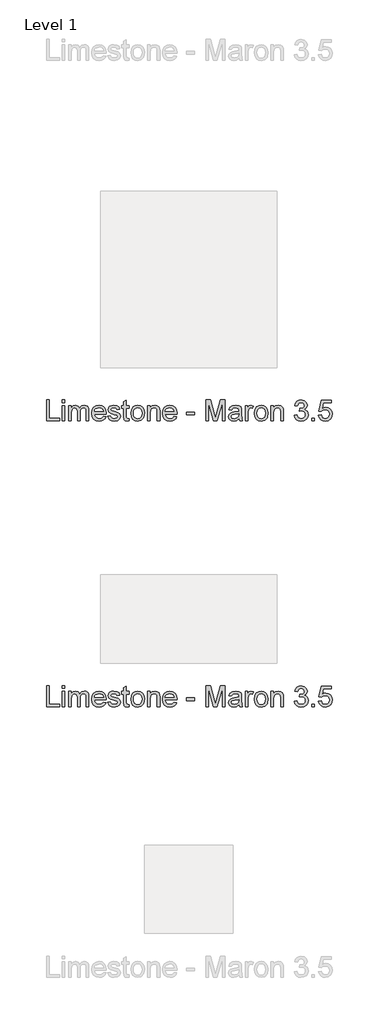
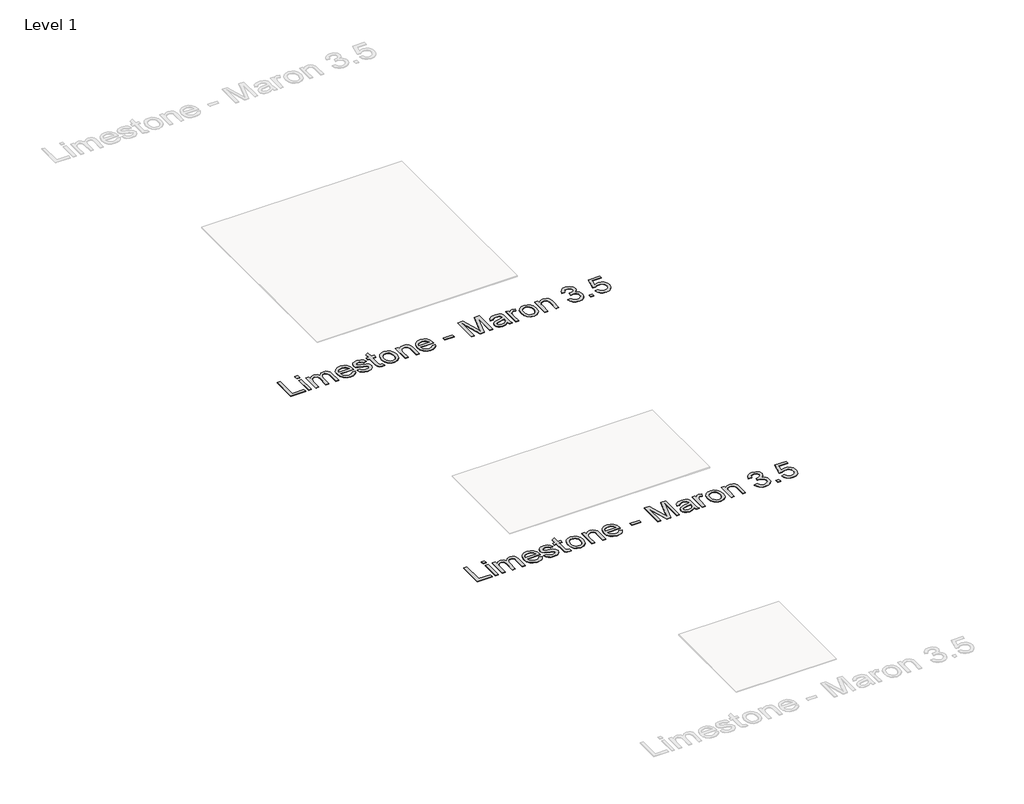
# One storey, part 16 of 80: 2 proxies.
"""IFC4 building model written with IfcOpenShell, lengths in millimetres."""

from ifc_helpers import new_model, si_unit, origin, origin_with_axes, place, context, project, spatial, polyline, outline, extrude, element, save

model = new_model("IFC4")

# Units and contexts
model_context = context("Model", 3, world=origin())
ifc_project = project(units=[si_unit("LENGTHUNIT", "METRE", prefix="MILLI")], contexts=[model_context])

# Site, building, storey
site = spatial("IfcSite", under=ifc_project)
building = spatial("IfcBuilding", under=site)
storey = spatial("IfcBuildingStorey", under=building, Name="Level 1", Elevation=0.0)

# Proxies
placement = place(None, origin())
element("IfcBuildingElementProxy", 1, Name="24\" Arial", ObjectType="24\" Arial", at=placement, inside=storey, context=model_context, shape_type="SweptSolid", body=[
    extrude(outline(polyline([(-27251.3838002, -675.4265771), (-27251.3838002, -557.272731), (-27236.6145694, -557.272731), (-27236.6145694, -660.6573464), (-27177.5376464, -660.6573464), (-27177.5376464, -675.4265771), (-27251.3838002, -675.4265771)])), origin_with_axes(), (0.0, 0.0, 1.0), 2.0),
    extrude(outline(polyline([(-27162.7684156, -572.0419617), (-27162.7684156, -557.272731), (-27147.9991848, -557.272731), (-27147.9991848, -572.0419617), (-27162.7684156, -572.0419617)])), origin_with_axes(), (0.0, 0.0, 1.0), 2.0),
    extrude(outline(polyline([(-27162.7684156, -675.4265771), (-27162.7684156, -588.6573464), (-27147.9991848, -588.6573464), (-27147.9991848, -675.4265771), (-27162.7684156, -675.4265771)])), origin_with_axes(), (0.0, 0.0, 1.0), 2.0),
    extrude(outline(polyline([(-27125.8453387, -675.4265771), (-27125.8453387, -588.6573464), (-27111.0761079, -588.6573464), (-27111.0761079, -602.9361925), (-27100.9222617, -591.2390771), (-27086.4703387, -586.8111925), (-27071.6722617, -591.3256156), (-27063.5376464, -603.974654), (-27052.0136079, -591.1020579), (-27037.4607233, -586.8111925), (-27026.3585598, -588.5960483), (-27018.1482233, -593.9506156), (-27013.074906, -603.0191252), (-27011.3838002, -615.9458079), (-27011.3838002, -675.4265771), (-27026.153031, -675.4265771), (-27026.153031, -622.2919617), (-27027.5232233, -609.960231), (-27032.4847617, -603.8881156), (-27040.9222617, -601.5804233), (-27048.9234637, -603.0587887), (-27055.4463002, -607.4938848), (-27059.7840406, -615.1885964), (-27061.2299541, -626.4458079), (-27061.2299541, -675.4265771), (-27075.9991848, -675.4265771), (-27075.9991848, -620.647731), (-27079.4174541, -606.3400387), (-27090.6241848, -601.5804233), (-27101.5568771, -604.7535002), (-27108.8261079, -614.0419617), (-27111.0761079, -631.6669617), (-27111.0761079, -675.4265771), (-27125.8453387, -675.4265771)])), origin_with_axes(), (0.0, 0.0, 1.0), 2.0),
    extrude(outline(polyline([(-26928.4799541, -649.5804233), (-26913.9991848, -651.4265771), (-26919.2167329, -662.3376348), (-26927.5424541, -670.4938848), (-26938.7888483, -675.5780194), (-26952.7684156, -677.272731), (-26970.0977425, -674.3484521), (-26983.4318771, -665.5756156), (-26991.934281, -651.5239329), (-26994.7684156, -632.7631156), (-26991.9054348, -613.3712887), (-26983.3164925, -598.8688848), (-26970.1626464, -589.8256156), (-26953.6049541, -586.8111925), (-26937.5628867, -589.818404), (-26924.7443771, -598.8400387), (-26916.3393291, -613.3135964), (-26913.5376464, -632.6765771), (-26913.6241848, -636.6573464), (-26979.9991848, -636.6573464), (-26977.4426944, -647.7126348), (-26971.5039925, -655.8400387), (-26962.9330791, -660.8376348), (-26952.4799541, -662.5035002), (-26937.9991848, -659.4169617), (-26928.4799541, -649.5804233)]), holes=[polyline([(-26979.9991848, -621.8881156), (-26928.3068771, -621.8881156), (-26934.2203387, -608.5035002), (-26942.8309156, -603.3111925), (-26953.6626464, -601.5804233), (-26971.8501464, -607.1044617), (-26977.5725021, -613.5623944), (-26979.9991848, -621.8881156)])]), origin_with_axes(), (0.0, 0.0, 1.0), 2.0),
    extrude(outline(polyline([(-26904.3068771, -649.5804233), (-26889.5376464, -647.7342694), (-26882.7011079, -658.6958079), (-26867.0376464, -662.5035002), (-26851.9799541, -659.0131156), (-26847.0761079, -650.8208079), (-26852.0088002, -644.1861925), (-26867.2107233, -639.974654), (-26889.4511079, -632.7486925), (-26899.1578387, -624.3111925), (-26902.4607233, -612.397731), (-26899.8068771, -601.3929233), (-26892.5664925, -592.9842694), (-26883.1770694, -588.6140771), (-26870.4703387, -586.8111925), (-26852.4991848, -589.710231), (-26841.0761079, -597.5563848), (-26835.9991848, -610.8111925), (-26850.7684156, -612.6573464), (-26856.3213002, -604.5083079), (-26869.3164925, -601.5804233), (-26883.4511079, -604.3785002), (-26887.6914925, -610.897731), (-26885.9318771, -615.1958079), (-26880.4222617, -618.4554233), (-26867.7011079, -621.599654), (-26846.0232233, -628.5515771), (-26835.9559156, -636.4265771), (-26832.3068771, -649.2631156), (-26836.590531, -663.397731), (-26848.9511079, -673.6525387), (-26867.2395694, -677.272731), (-26882.1313964, -675.5275387), (-26892.9991848, -670.2919617), (-26900.2539925, -661.6236925), (-26904.3068771, -649.5804233)])), origin_with_axes(), (0.0, 0.0, 1.0), 2.0),
    extrude(outline(polyline([(-26784.3068771, -663.1092694), (-26782.4607233, -675.8592694), (-26793.5088002, -677.272731), (-26805.8838002, -674.8208079), (-26812.0568771, -668.3881156), (-26813.8453387, -651.6285002), (-26813.8453387, -603.4265771), (-26824.9222617, -603.4265771), (-26824.9222617, -588.6573464), (-26813.8453387, -588.6573464), (-26813.8453387, -567.5708079), (-26799.0761079, -558.8881156), (-26799.0761079, -588.6573464), (-26784.3068771, -588.6573464), (-26784.3068771, -603.4265771), (-26799.0761079, -603.4265771), (-26799.0761079, -651.1958079), (-26798.2972617, -658.8111925), (-26795.7732233, -661.5083079), (-26790.7395694, -662.5035002), (-26784.3068771, -663.1092694)])), origin_with_axes(), (0.0, 0.0, 1.0), 2.0),
    extrude(outline(polyline([(-26773.2299541, -632.0419617), (-26770.0352425, -611.1212887), (-26760.4511079, -596.4169617), (-26748.6097617, -589.2126348), (-26734.4318771, -586.8111925), (-26718.9162521, -589.7354714), (-26706.5232233, -598.5083079), (-26698.3994252, -612.4373944), (-26695.6914925, -630.8304233), (-26700.4799541, -657.1092694), (-26714.4270694, -671.9794617), (-26734.4318771, -677.272731), (-26750.1350021, -674.3592694), (-26762.5136079, -665.6188848), (-26770.5508675, -651.397731), (-26773.2299541, -632.0419617)]), holes=[polyline([(-26758.4607233, -632.0131156), (-26756.7515887, -645.3797021), (-26751.6241848, -654.9025387), (-26743.9078387, -660.6032598), (-26734.4318771, -662.5035002), (-26724.9991848, -660.5924425), (-26717.2972617, -654.8592694), (-26712.1698579, -645.210231), (-26710.4607233, -631.5515771), (-26712.1806752, -618.5744137), (-26717.340531, -609.1813848), (-26725.0532714, -603.4806637), (-26734.4318771, -601.5804233), (-26743.9078387, -603.4734521), (-26751.6241848, -609.1525387), (-26756.7515887, -618.6537406), (-26758.4607233, -632.0131156)])]), origin_with_axes(), (0.0, 0.0, 1.0), 2.0),
    extrude(outline(polyline([(-26679.0761079, -675.4265771), (-26679.0761079, -588.6573464), (-26664.3068771, -588.6573464), (-26664.3068771, -600.772731), (-26653.0136079, -590.3015771), (-26637.5953387, -586.8111925), (-26623.6482233, -589.6236925), (-26614.1289925, -597.0083079), (-26609.7011079, -607.8688848), (-26608.9222617, -622.147731), (-26608.9222617, -675.4265771), (-26623.6914925, -675.4265771), (-26623.6914925, -624.1381156), (-26625.3934156, -611.0708079), (-26631.4078387, -604.162154), (-26641.5472617, -601.5804233), (-26657.5713002, -607.3785002), (-26662.6229829, -615.7799425), (-26664.3068771, -629.3881156), (-26664.3068771, -675.4265771), (-26679.0761079, -675.4265771)])), origin_with_axes(), (0.0, 0.0, 1.0), 2.0),
    extrude(outline(polyline([(-26527.8645694, -649.5804233), (-26513.3838002, -651.4265771), (-26518.6013483, -662.3376348), (-26526.9270694, -670.4938848), (-26538.1734637, -675.5780194), (-26552.153031, -677.272731), (-26569.4823579, -674.3484521), (-26582.8164925, -665.5756156), (-26591.3188964, -651.5239329), (-26594.153031, -632.7631156), (-26591.2900502, -613.3712887), (-26582.7011079, -598.8688848), (-26569.5472617, -589.8256156), (-26552.9895694, -586.8111925), (-26536.9475021, -589.818404), (-26524.1289925, -598.8400387), (-26515.7239444, -613.3135964), (-26512.9222617, -632.6765771), (-26513.0088002, -636.6573464), (-26579.3838002, -636.6573464), (-26576.8273098, -647.7126348), (-26570.8886079, -655.8400387), (-26562.3176944, -660.8376348), (-26551.8645694, -662.5035002), (-26537.3838002, -659.4169617), (-26527.8645694, -649.5804233)]), holes=[polyline([(-26579.3838002, -621.8881156), (-26527.6914925, -621.8881156), (-26533.6049541, -608.5035002), (-26542.215531, -603.3111925), (-26553.0472617, -601.5804233), (-26571.2347617, -607.1044617), (-26576.9571175, -613.5623944), (-26579.3838002, -621.8881156)])]), origin_with_axes(), (0.0, 0.0, 1.0), 2.0),
    extrude(outline(polyline([(-26459.3838002, -640.349654), (-26459.3838002, -625.5804233), (-26413.2299541, -625.5804233), (-26413.2299541, -640.349654), (-26459.3838002, -640.349654)])), origin_with_axes(), (0.0, 0.0, 1.0), 2.0),
    extrude(outline(polyline([(-26348.6145694, -675.4265771), (-26348.6145694, -557.272731), (-26323.2011079, -557.272731), (-26299.028031, -640.5515771), (-26294.153031, -657.9458079), (-26288.8741848, -639.1092694), (-26265.1049541, -557.272731), (-26239.6914925, -557.272731), (-26239.6914925, -675.4265771), (-26254.4607233, -675.4265771), (-26254.4607233, -572.0419617), (-26284.1434156, -675.4265771), (-26304.1626464, -675.4265771), (-26333.8453387, -572.0419617), (-26333.8453387, -675.4265771), (-26348.6145694, -675.4265771)])), origin_with_axes(), (0.0, 0.0, 1.0), 2.0),
    extrude(outline(polyline([(-26160.3068771, -664.349654), (-26174.6289925, -674.3592694), (-26190.4511079, -677.272731), (-26202.793656, -675.5203271), (-26211.8982233, -670.2631156), (-26217.512406, -662.2799425), (-26219.3838002, -652.349654), (-26216.5568771, -640.6669617), (-26209.1289925, -632.1861925), (-26198.7876464, -627.3400387), (-26186.0088002, -625.1188848), (-26160.3934156, -620.0419617), (-26160.3068771, -616.7535002), (-26164.3741848, -605.849654), (-26180.7011079, -601.5804233), (-26195.6434156, -604.4217694), (-26202.7684156, -614.5035002), (-26217.5376464, -612.6573464), (-26211.1482233, -598.2342694), (-26198.2828387, -589.7823464), (-26178.7972617, -586.8111925), (-26160.8982233, -589.4361925), (-26150.7876464, -596.0275387), (-26146.2588002, -606.0515771), (-26145.5376464, -618.974654), (-26145.5376464, -637.349654), (-26144.7876464, -663.0083079), (-26141.8453387, -675.4265771), (-26156.6145694, -675.4265771), (-26160.3068771, -664.349654)]), holes=[polyline([(-26160.3068771, -634.8111925), (-26184.1338002, -639.3400387), (-26196.840531, -641.7342694), (-26202.5953387, -645.6285002), (-26204.6145694, -651.3111925), (-26200.215531, -659.3015771), (-26187.3068771, -662.5035002), (-26172.3645694, -658.9698464), (-26162.7299541, -650.4169617), (-26160.3934156, -638.9938848), (-26160.3068771, -634.8111925)])]), origin_with_axes(), (0.0, 0.0, 1.0), 2.0),
    extrude(outline(polyline([(-26125.2299541, -675.4265771), (-26125.2299541, -588.6573464), (-26112.3068771, -588.6573464), (-26112.3068771, -601.4938848), (-26103.1338002, -589.6669617), (-26093.903031, -586.8111925), (-26079.0761079, -591.3688848), (-26084.0088002, -604.6092694), (-26094.3934156, -601.5804233), (-26102.7443771, -604.4938848), (-26108.0664925, -612.5708079), (-26110.4607233, -629.8208079), (-26110.4607233, -675.4265771), (-26125.2299541, -675.4265771)])), origin_with_axes(), (0.0, 0.0, 1.0), 2.0),
    extrude(outline(polyline([(-26073.5376464, -632.0419617), (-26070.3429348, -611.1212887), (-26060.7588002, -596.4169617), (-26048.9174541, -589.2126348), (-26034.7395694, -586.8111925), (-26019.2239444, -589.7354714), (-26006.8309156, -598.5083079), (-25998.7071175, -612.4373944), (-25995.9991848, -630.8304233), (-26000.7876464, -657.1092694), (-26014.7347617, -671.9794617), (-26034.7395694, -677.272731), (-26050.4426944, -674.3592694), (-26062.8213002, -665.6188848), (-26070.8585598, -651.397731), (-26073.5376464, -632.0419617)]), holes=[polyline([(-26058.7684156, -632.0131156), (-26057.059281, -645.3797021), (-26051.9318771, -654.9025387), (-26044.215531, -660.6032598), (-26034.7395694, -662.5035002), (-26025.3068771, -660.5924425), (-26017.6049541, -654.8592694), (-26012.4775502, -645.210231), (-26010.7684156, -631.5515771), (-26012.4883675, -618.5744137), (-26017.6482233, -609.1813848), (-26025.3609637, -603.4806637), (-26034.7395694, -601.5804233), (-26044.215531, -603.4734521), (-26051.9318771, -609.1525387), (-26057.059281, -618.6537406), (-26058.7684156, -632.0131156)])]), origin_with_axes(), (0.0, 0.0, 1.0), 2.0),
    extrude(outline(polyline([(-25979.3838002, -675.4265771), (-25979.3838002, -588.6573464), (-25964.6145694, -588.6573464), (-25964.6145694, -600.772731), (-25953.3213002, -590.3015771), (-25937.903031, -586.8111925), (-25923.9559156, -589.6236925), (-25914.4366848, -597.0083079), (-25910.0088002, -607.8688848), (-25909.2299541, -622.147731), (-25909.2299541, -675.4265771), (-25923.9991848, -675.4265771), (-25923.9991848, -624.1381156), (-25925.7011079, -611.0708079), (-25931.715531, -604.162154), (-25941.8549541, -601.5804233), (-25957.8789925, -607.3785002), (-25962.9306752, -615.7799425), (-25964.6145694, -629.3881156), (-25964.6145694, -675.4265771), (-25979.3838002, -675.4265771)])), origin_with_axes(), (0.0, 0.0, 1.0), 2.0),
    extrude(outline(polyline([(-25846.4607233, -644.0419617), (-25831.6914925, -642.1958079), (-25823.5424541, -657.7438848), (-25808.2972617, -662.5035002), (-25798.1722617, -660.866481), (-25790.3549541, -655.9554233), (-25785.3573579, -648.6285002), (-25783.6914925, -639.7438848), (-25785.3429348, -631.3099906), (-25790.2972617, -624.4698464), (-25797.7972617, -619.9373944), (-25807.0857233, -618.4265771), (-25817.4414925, -620.0419617), (-25815.7972617, -605.272731), (-25813.4318771, -605.4458079), (-25796.6722617, -601.2054233), (-25791.090531, -595.8256156), (-25789.2299541, -588.1669617), (-25794.6241848, -576.6140771), (-25808.528031, -572.0419617), (-25822.6049541, -576.6573464), (-25829.8453387, -590.5035002), (-25844.6145694, -588.6573464), (-25840.2660117, -575.3953271), (-25832.528031, -565.4938848), (-25821.9414925, -559.3280194), (-25809.0472617, -557.272731), (-25791.2347617, -561.3256156), (-25778.7732233, -572.4025387), (-25774.4607233, -587.3015771), (-25778.5568771, -600.9169617), (-25790.6722617, -610.6958079), (-25781.4270694, -614.4313848), (-25774.5761079, -620.7919617), (-25770.3357233, -629.4313848), (-25768.9222617, -640.0035002), (-25771.7491848, -654.397731), (-25780.2299541, -666.4265771), (-25793.0304348, -674.5611925), (-25808.8164925, -677.272731), (-25823.0953387, -674.9578271), (-25834.7203387, -668.0131156), (-25842.8044733, -657.3905194), (-25846.4607233, -644.0419617)])), origin_with_axes(), (0.0, 0.0, 1.0), 2.0),
    extrude(outline(polyline([(-25748.6145694, -675.4265771), (-25748.6145694, -660.6573464), (-25733.8453387, -660.6573464), (-25733.8453387, -675.4265771), (-25748.6145694, -675.4265771)])), origin_with_axes(), (0.0, 0.0, 1.0), 2.0),
    extrude(outline(polyline([(-25709.8453387, -644.0419617), (-25695.0761079, -642.1958079), (-25687.6338002, -657.412154), (-25672.2011079, -662.5035002), (-25661.6145694, -660.7330675), (-25653.6818771, -655.4217694), (-25648.7275502, -647.1825867), (-25647.0761079, -636.6285002), (-25648.6229829, -626.6910002), (-25653.2636079, -619.0900387), (-25661.0340406, -614.2655194), (-25671.9703387, -612.6573464), (-25684.9366848, -615.224654), (-25693.2299541, -621.8881156), (-25707.9991848, -620.0419617), (-25695.0761079, -559.1188848), (-25637.8453387, -559.1188848), (-25637.8453387, -573.8881156), (-25683.1338002, -573.8881156), (-25689.4511079, -606.4265771), (-25678.9006271, -600.022731), (-25667.8453387, -597.8881156), (-25654.0460598, -600.5347502), (-25642.590531, -608.474654), (-25634.8777906, -620.5756156), (-25632.3068771, -635.7054233), (-25634.621781, -650.474654), (-25641.5664925, -663.1092694), (-25654.8645694, -673.7318656), (-25672.2588002, -677.272731), (-25686.7648098, -674.9974906), (-25698.3213002, -668.1717694), (-25706.2431752, -657.5888367), (-25709.8453387, -644.0419617)])), origin_with_axes(), (0.0, 0.0, 1.0), 2.0),
])
element("IfcBuildingElementProxy", 2, Name="24\" Arial", ObjectType="24\" Arial", at=placement, inside=storey, context=model_context, shape_type="SweptSolid", body=[
    extrude(outline(polyline([(-27251.3838002, -2293.131793), (-27251.3838002, -2174.9779468), (-27236.6145694, -2174.9779468), (-27236.6145694, -2278.3625622), (-27177.5376464, -2278.3625622), (-27177.5376464, -2293.131793), (-27251.3838002, -2293.131793)])), origin_with_axes(), (0.0, 0.0, 1.0), 2.0),
    extrude(outline(polyline([(-27162.7684156, -2189.7471776), (-27162.7684156, -2174.9779468), (-27147.9991848, -2174.9779468), (-27147.9991848, -2189.7471776), (-27162.7684156, -2189.7471776)])), origin_with_axes(), (0.0, 0.0, 1.0), 2.0),
    extrude(outline(polyline([(-27162.7684156, -2293.131793), (-27162.7684156, -2206.3625622), (-27147.9991848, -2206.3625622), (-27147.9991848, -2293.131793), (-27162.7684156, -2293.131793)])), origin_with_axes(), (0.0, 0.0, 1.0), 2.0),
    extrude(outline(polyline([(-27125.8453387, -2293.131793), (-27125.8453387, -2206.3625622), (-27111.0761079, -2206.3625622), (-27111.0761079, -2220.6414084), (-27100.9222617, -2208.944293), (-27086.4703387, -2204.5164084), (-27071.6722617, -2209.0308314), (-27063.5376464, -2221.6798699), (-27052.0136079, -2208.8072737), (-27037.4607233, -2204.5164084), (-27026.3585598, -2206.3012641), (-27018.1482233, -2211.6558314), (-27013.074906, -2220.724341), (-27011.3838002, -2233.6510237), (-27011.3838002, -2293.131793), (-27026.153031, -2293.131793), (-27026.153031, -2239.9971776), (-27027.5232233, -2227.6654468), (-27032.4847617, -2221.5933314), (-27040.9222617, -2219.2856391), (-27048.9234637, -2220.7640045), (-27055.4463002, -2225.1991007), (-27059.7840406, -2232.8938122), (-27061.2299541, -2244.1510237), (-27061.2299541, -2293.131793), (-27075.9991848, -2293.131793), (-27075.9991848, -2238.3529468), (-27079.4174541, -2224.0452545), (-27090.6241848, -2219.2856391), (-27101.5568771, -2222.458716), (-27108.8261079, -2231.7471776), (-27111.0761079, -2249.3721776), (-27111.0761079, -2293.131793), (-27125.8453387, -2293.131793)])), origin_with_axes(), (0.0, 0.0, 1.0), 2.0),
    extrude(outline(polyline([(-26928.4799541, -2267.2856391), (-26913.9991848, -2269.131793), (-26919.2167329, -2280.0428507), (-26927.5424541, -2288.1991007), (-26938.7888483, -2293.2832353), (-26952.7684156, -2294.9779468), (-26970.0977425, -2292.053668), (-26983.4318771, -2283.2808314), (-26991.934281, -2269.2291487), (-26994.7684156, -2250.4683314), (-26991.9054348, -2231.0765045), (-26983.3164925, -2216.5741007), (-26970.1626464, -2207.5308314), (-26953.6049541, -2204.5164084), (-26937.5628867, -2207.5236199), (-26924.7443771, -2216.5452545), (-26916.3393291, -2231.0188122), (-26913.5376464, -2250.381793), (-26913.6241848, -2254.3625622), (-26979.9991848, -2254.3625622), (-26977.4426944, -2265.4178507), (-26971.5039925, -2273.5452545), (-26962.9330791, -2278.5428507), (-26952.4799541, -2280.208716), (-26937.9991848, -2277.1221776), (-26928.4799541, -2267.2856391)]), holes=[polyline([(-26979.9991848, -2239.5933314), (-26928.3068771, -2239.5933314), (-26934.2203387, -2226.208716), (-26942.8309156, -2221.0164084), (-26953.6626464, -2219.2856391), (-26971.8501464, -2224.8096776), (-26977.5725021, -2231.2676103), (-26979.9991848, -2239.5933314)])]), origin_with_axes(), (0.0, 0.0, 1.0), 2.0),
    extrude(outline(polyline([(-26904.3068771, -2267.2856391), (-26889.5376464, -2265.4394853), (-26882.7011079, -2276.4010237), (-26867.0376464, -2280.208716), (-26851.9799541, -2276.7183314), (-26847.0761079, -2268.5260237), (-26852.0088002, -2261.8914084), (-26867.2107233, -2257.6798699), (-26889.4511079, -2250.4539084), (-26899.1578387, -2242.0164084), (-26902.4607233, -2230.1029468), (-26899.8068771, -2219.0981391), (-26892.5664925, -2210.6894853), (-26883.1770694, -2206.319293), (-26870.4703387, -2204.5164084), (-26852.4991848, -2207.4154468), (-26841.0761079, -2215.2616007), (-26835.9991848, -2228.5164084), (-26850.7684156, -2230.3625622), (-26856.3213002, -2222.2135237), (-26869.3164925, -2219.2856391), (-26883.4511079, -2222.083716), (-26887.6914925, -2228.6029468), (-26885.9318771, -2232.9010237), (-26880.4222617, -2236.1606391), (-26867.7011079, -2239.3048699), (-26846.0232233, -2246.256793), (-26835.9559156, -2254.131793), (-26832.3068771, -2266.9683314), (-26836.590531, -2281.1029468), (-26848.9511079, -2291.3577545), (-26867.2395694, -2294.9779468), (-26882.1313964, -2293.2327545), (-26892.9991848, -2287.9971776), (-26900.2539925, -2279.3289084), (-26904.3068771, -2267.2856391)])), origin_with_axes(), (0.0, 0.0, 1.0), 2.0),
    extrude(outline(polyline([(-26784.3068771, -2280.8144853), (-26782.4607233, -2293.5644853), (-26793.5088002, -2294.9779468), (-26805.8838002, -2292.5260237), (-26812.0568771, -2286.0933314), (-26813.8453387, -2269.333716), (-26813.8453387, -2221.131793), (-26824.9222617, -2221.131793), (-26824.9222617, -2206.3625622), (-26813.8453387, -2206.3625622), (-26813.8453387, -2185.2760237), (-26799.0761079, -2176.5933314), (-26799.0761079, -2206.3625622), (-26784.3068771, -2206.3625622), (-26784.3068771, -2221.131793), (-26799.0761079, -2221.131793), (-26799.0761079, -2268.9010237), (-26798.2972617, -2276.5164084), (-26795.7732233, -2279.2135237), (-26790.7395694, -2280.208716), (-26784.3068771, -2280.8144853)])), origin_with_axes(), (0.0, 0.0, 1.0), 2.0),
    extrude(outline(polyline([(-26773.2299541, -2249.7471776), (-26770.0352425, -2228.8265045), (-26760.4511079, -2214.1221776), (-26748.6097617, -2206.9178507), (-26734.4318771, -2204.5164084), (-26718.9162521, -2207.4406872), (-26706.5232233, -2216.2135237), (-26698.3994252, -2230.1426103), (-26695.6914925, -2248.5356391), (-26700.4799541, -2274.8144853), (-26714.4270694, -2289.6846776), (-26734.4318771, -2294.9779468), (-26750.1350021, -2292.0644853), (-26762.5136079, -2283.3241007), (-26770.5508675, -2269.1029468), (-26773.2299541, -2249.7471776)]), holes=[polyline([(-26758.4607233, -2249.7183314), (-26756.7515887, -2263.084918), (-26751.6241848, -2272.6077545), (-26743.9078387, -2278.3084757), (-26734.4318771, -2280.208716), (-26724.9991848, -2278.2976584), (-26717.2972617, -2272.5644853), (-26712.1698579, -2262.9154468), (-26710.4607233, -2249.256793), (-26712.1806752, -2236.2796295), (-26717.340531, -2226.8866007), (-26725.0532714, -2221.1858795), (-26734.4318771, -2219.2856391), (-26743.9078387, -2221.178668), (-26751.6241848, -2226.8577545), (-26756.7515887, -2236.3589564), (-26758.4607233, -2249.7183314)])]), origin_with_axes(), (0.0, 0.0, 1.0), 2.0),
    extrude(outline(polyline([(-26679.0761079, -2293.131793), (-26679.0761079, -2206.3625622), (-26664.3068771, -2206.3625622), (-26664.3068771, -2218.4779468), (-26653.0136079, -2208.006793), (-26637.5953387, -2204.5164084), (-26623.6482233, -2207.3289084), (-26614.1289925, -2214.7135237), (-26609.7011079, -2225.5741007), (-26608.9222617, -2239.8529468), (-26608.9222617, -2293.131793), (-26623.6914925, -2293.131793), (-26623.6914925, -2241.8433314), (-26625.3934156, -2228.7760237), (-26631.4078387, -2221.8673699), (-26641.5472617, -2219.2856391), (-26657.5713002, -2225.083716), (-26662.6229829, -2233.4851584), (-26664.3068771, -2247.0933314), (-26664.3068771, -2293.131793), (-26679.0761079, -2293.131793)])), origin_with_axes(), (0.0, 0.0, 1.0), 2.0),
    extrude(outline(polyline([(-26527.8645694, -2267.2856391), (-26513.3838002, -2269.131793), (-26518.6013483, -2280.0428507), (-26526.9270694, -2288.1991007), (-26538.1734637, -2293.2832353), (-26552.153031, -2294.9779468), (-26569.4823579, -2292.053668), (-26582.8164925, -2283.2808314), (-26591.3188964, -2269.2291487), (-26594.153031, -2250.4683314), (-26591.2900502, -2231.0765045), (-26582.7011079, -2216.5741007), (-26569.5472617, -2207.5308314), (-26552.9895694, -2204.5164084), (-26536.9475021, -2207.5236199), (-26524.1289925, -2216.5452545), (-26515.7239444, -2231.0188122), (-26512.9222617, -2250.381793), (-26513.0088002, -2254.3625622), (-26579.3838002, -2254.3625622), (-26576.8273098, -2265.4178507), (-26570.8886079, -2273.5452545), (-26562.3176944, -2278.5428507), (-26551.8645694, -2280.208716), (-26537.3838002, -2277.1221776), (-26527.8645694, -2267.2856391)]), holes=[polyline([(-26579.3838002, -2239.5933314), (-26527.6914925, -2239.5933314), (-26533.6049541, -2226.208716), (-26542.215531, -2221.0164084), (-26553.0472617, -2219.2856391), (-26571.2347617, -2224.8096776), (-26576.9571175, -2231.2676103), (-26579.3838002, -2239.5933314)])]), origin_with_axes(), (0.0, 0.0, 1.0), 2.0),
    extrude(outline(polyline([(-26459.3838002, -2258.0548699), (-26459.3838002, -2243.2856391), (-26413.2299541, -2243.2856391), (-26413.2299541, -2258.0548699), (-26459.3838002, -2258.0548699)])), origin_with_axes(), (0.0, 0.0, 1.0), 2.0),
    extrude(outline(polyline([(-26348.6145694, -2293.131793), (-26348.6145694, -2174.9779468), (-26323.2011079, -2174.9779468), (-26299.028031, -2258.256793), (-26294.153031, -2275.6510237), (-26288.8741848, -2256.8144853), (-26265.1049541, -2174.9779468), (-26239.6914925, -2174.9779468), (-26239.6914925, -2293.131793), (-26254.4607233, -2293.131793), (-26254.4607233, -2189.7471776), (-26284.1434156, -2293.131793), (-26304.1626464, -2293.131793), (-26333.8453387, -2189.7471776), (-26333.8453387, -2293.131793), (-26348.6145694, -2293.131793)])), origin_with_axes(), (0.0, 0.0, 1.0), 2.0),
    extrude(outline(polyline([(-26160.3068771, -2282.0548699), (-26174.6289925, -2292.0644853), (-26190.4511079, -2294.9779468), (-26202.793656, -2293.225543), (-26211.8982233, -2287.9683314), (-26217.512406, -2279.9851584), (-26219.3838002, -2270.0548699), (-26216.5568771, -2258.3721776), (-26209.1289925, -2249.8914084), (-26198.7876464, -2245.0452545), (-26186.0088002, -2242.8241007), (-26160.3934156, -2237.7471776), (-26160.3068771, -2234.458716), (-26164.3741848, -2223.5548699), (-26180.7011079, -2219.2856391), (-26195.6434156, -2222.1269853), (-26202.7684156, -2232.208716), (-26217.5376464, -2230.3625622), (-26211.1482233, -2215.9394853), (-26198.2828387, -2207.4875622), (-26178.7972617, -2204.5164084), (-26160.8982233, -2207.1414084), (-26150.7876464, -2213.7327545), (-26146.2588002, -2223.756793), (-26145.5376464, -2236.6798699), (-26145.5376464, -2255.0548699), (-26144.7876464, -2280.7135237), (-26141.8453387, -2293.131793), (-26156.6145694, -2293.131793), (-26160.3068771, -2282.0548699)]), holes=[polyline([(-26160.3068771, -2252.5164084), (-26184.1338002, -2257.0452545), (-26196.840531, -2259.4394853), (-26202.5953387, -2263.333716), (-26204.6145694, -2269.0164084), (-26200.215531, -2277.006793), (-26187.3068771, -2280.208716), (-26172.3645694, -2276.6750622), (-26162.7299541, -2268.1221776), (-26160.3934156, -2256.6991007), (-26160.3068771, -2252.5164084)])]), origin_with_axes(), (0.0, 0.0, 1.0), 2.0),
    extrude(outline(polyline([(-26125.2299541, -2293.131793), (-26125.2299541, -2206.3625622), (-26112.3068771, -2206.3625622), (-26112.3068771, -2219.1991007), (-26103.1338002, -2207.3721776), (-26093.903031, -2204.5164084), (-26079.0761079, -2209.0741007), (-26084.0088002, -2222.3144853), (-26094.3934156, -2219.2856391), (-26102.7443771, -2222.1991007), (-26108.0664925, -2230.2760237), (-26110.4607233, -2247.5260237), (-26110.4607233, -2293.131793), (-26125.2299541, -2293.131793)])), origin_with_axes(), (0.0, 0.0, 1.0), 2.0),
    extrude(outline(polyline([(-26073.5376464, -2249.7471776), (-26070.3429348, -2228.8265045), (-26060.7588002, -2214.1221776), (-26048.9174541, -2206.9178507), (-26034.7395694, -2204.5164084), (-26019.2239444, -2207.4406872), (-26006.8309156, -2216.2135237), (-25998.7071175, -2230.1426103), (-25995.9991848, -2248.5356391), (-26000.7876464, -2274.8144853), (-26014.7347617, -2289.6846776), (-26034.7395694, -2294.9779468), (-26050.4426944, -2292.0644853), (-26062.8213002, -2283.3241007), (-26070.8585598, -2269.1029468), (-26073.5376464, -2249.7471776)]), holes=[polyline([(-26058.7684156, -2249.7183314), (-26057.059281, -2263.084918), (-26051.9318771, -2272.6077545), (-26044.215531, -2278.3084757), (-26034.7395694, -2280.208716), (-26025.3068771, -2278.2976584), (-26017.6049541, -2272.5644853), (-26012.4775502, -2262.9154468), (-26010.7684156, -2249.256793), (-26012.4883675, -2236.2796295), (-26017.6482233, -2226.8866007), (-26025.3609637, -2221.1858795), (-26034.7395694, -2219.2856391), (-26044.215531, -2221.178668), (-26051.9318771, -2226.8577545), (-26057.059281, -2236.3589564), (-26058.7684156, -2249.7183314)])]), origin_with_axes(), (0.0, 0.0, 1.0), 2.0),
    extrude(outline(polyline([(-25979.3838002, -2293.131793), (-25979.3838002, -2206.3625622), (-25964.6145694, -2206.3625622), (-25964.6145694, -2218.4779468), (-25953.3213002, -2208.006793), (-25937.903031, -2204.5164084), (-25923.9559156, -2207.3289084), (-25914.4366848, -2214.7135237), (-25910.0088002, -2225.5741007), (-25909.2299541, -2239.8529468), (-25909.2299541, -2293.131793), (-25923.9991848, -2293.131793), (-25923.9991848, -2241.8433314), (-25925.7011079, -2228.7760237), (-25931.715531, -2221.8673699), (-25941.8549541, -2219.2856391), (-25957.8789925, -2225.083716), (-25962.9306752, -2233.4851584), (-25964.6145694, -2247.0933314), (-25964.6145694, -2293.131793), (-25979.3838002, -2293.131793)])), origin_with_axes(), (0.0, 0.0, 1.0), 2.0),
    extrude(outline(polyline([(-25846.4607233, -2261.7471776), (-25831.6914925, -2259.9010237), (-25823.5424541, -2275.4491007), (-25808.2972617, -2280.208716), (-25798.1722617, -2278.5716968), (-25790.3549541, -2273.6606391), (-25785.3573579, -2266.333716), (-25783.6914925, -2257.4491007), (-25785.3429348, -2249.0152064), (-25790.2972617, -2242.1750622), (-25797.7972617, -2237.6426103), (-25807.0857233, -2236.131793), (-25817.4414925, -2237.7471776), (-25815.7972617, -2222.9779468), (-25813.4318771, -2223.1510237), (-25796.6722617, -2218.9106391), (-25791.090531, -2213.5308314), (-25789.2299541, -2205.8721776), (-25794.6241848, -2194.319293), (-25808.528031, -2189.7471776), (-25822.6049541, -2194.3625622), (-25829.8453387, -2208.208716), (-25844.6145694, -2206.3625622), (-25840.2660117, -2193.100543), (-25832.528031, -2183.1991007), (-25821.9414925, -2177.0332353), (-25809.0472617, -2174.9779468), (-25791.2347617, -2179.0308314), (-25778.7732233, -2190.1077545), (-25774.4607233, -2205.006793), (-25778.5568771, -2218.6221776), (-25790.6722617, -2228.4010237), (-25781.4270694, -2232.1366007), (-25774.5761079, -2238.4971776), (-25770.3357233, -2247.1366007), (-25768.9222617, -2257.708716), (-25771.7491848, -2272.1029468), (-25780.2299541, -2284.131793), (-25793.0304348, -2292.2664084), (-25808.8164925, -2294.9779468), (-25823.0953387, -2292.663043), (-25834.7203387, -2285.7183314), (-25842.8044733, -2275.0957353), (-25846.4607233, -2261.7471776)])), origin_with_axes(), (0.0, 0.0, 1.0), 2.0),
    extrude(outline(polyline([(-25748.6145694, -2293.131793), (-25748.6145694, -2278.3625622), (-25733.8453387, -2278.3625622), (-25733.8453387, -2293.131793), (-25748.6145694, -2293.131793)])), origin_with_axes(), (0.0, 0.0, 1.0), 2.0),
    extrude(outline(polyline([(-25709.8453387, -2261.7471776), (-25695.0761079, -2259.9010237), (-25687.6338002, -2275.1173699), (-25672.2011079, -2280.208716), (-25661.6145694, -2278.4382834), (-25653.6818771, -2273.1269853), (-25648.7275502, -2264.8878026), (-25647.0761079, -2254.333716), (-25648.6229829, -2244.396216), (-25653.2636079, -2236.7952545), (-25661.0340406, -2231.9707353), (-25671.9703387, -2230.3625622), (-25684.9366848, -2232.9298699), (-25693.2299541, -2239.5933314), (-25707.9991848, -2237.7471776), (-25695.0761079, -2176.8241007), (-25637.8453387, -2176.8241007), (-25637.8453387, -2191.5933314), (-25683.1338002, -2191.5933314), (-25689.4511079, -2224.131793), (-25678.9006271, -2217.7279468), (-25667.8453387, -2215.5933314), (-25654.0460598, -2218.239966), (-25642.590531, -2226.1798699), (-25634.8777906, -2238.2808314), (-25632.3068771, -2253.4106391), (-25634.621781, -2268.1798699), (-25641.5664925, -2280.8144853), (-25654.8645694, -2291.4370814), (-25672.2588002, -2294.9779468), (-25686.7648098, -2292.7027064), (-25698.3213002, -2285.8769853), (-25706.2431752, -2275.2940526), (-25709.8453387, -2261.7471776)])), origin_with_axes(), (0.0, 0.0, 1.0), 2.0),
])

save(model, "model.ifc")
